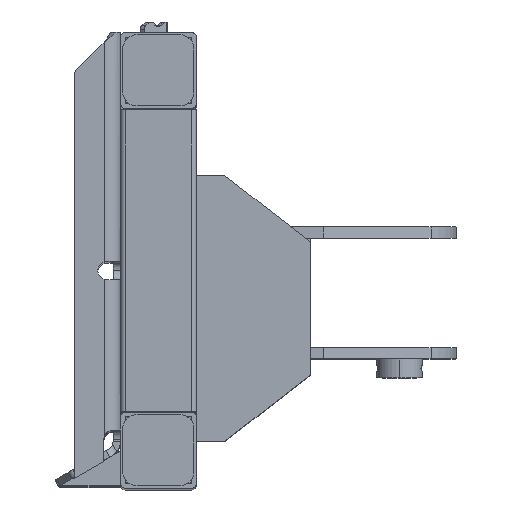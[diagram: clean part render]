
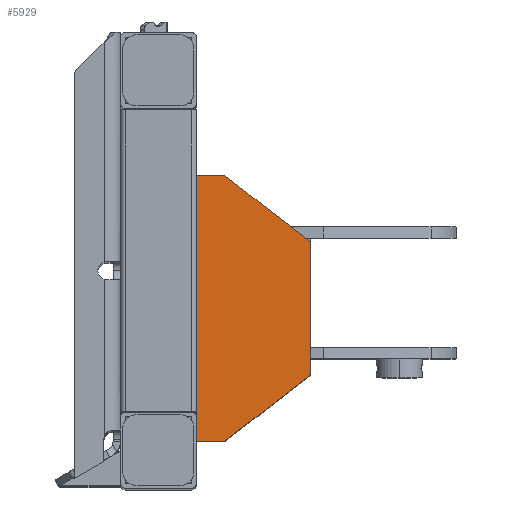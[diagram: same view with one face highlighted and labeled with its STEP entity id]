
A CAD part, top view. The second image highlights one B-rep face of the part: STEP entity #5929.
In plain terms, the highlighted planar face has unit normal (0, 0, 1).
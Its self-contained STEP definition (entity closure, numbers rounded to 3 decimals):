
#374 = DIRECTION ( 'NONE',  ( -0.614, 0.789, 0. ) ) ;
#712 = VECTOR ( 'NONE', #14473, 1000. ) ;
#1505 = EDGE_CURVE ( 'NONE', #12316, #4648, #5708, .T. ) ;
#1690 = CARTESIAN_POINT ( 'NONE',  ( 140., 30., 5. ) ) ;
#1708 = CARTESIAN_POINT ( 'NONE',  ( 70., 120., 5. ) ) ;
#2168 = ORIENTED_EDGE ( 'NONE', *, *, #12221, .T. ) ;
#2255 = DIRECTION ( 'NONE',  ( 1., 0., 0. ) ) ;
#2358 = LINE ( 'NONE', #10244, #14744 ) ;
#2473 = CARTESIAN_POINT ( 'NONE',  ( 70., 120., 5. ) ) ;
#2900 = ORIENTED_EDGE ( 'NONE', *, *, #5229, .T. ) ;
#3187 = ORIENTED_EDGE ( 'NONE', *, *, #1505, .T. ) ;
#3421 = DIRECTION ( 'NONE',  ( 0., 0., -1. ) ) ;
#3741 = EDGE_LOOP ( 'NONE', ( #7368, #2900, #2168, #3187, #7110, #4246 ) ) ;
#3915 = LINE ( 'NONE', #13465, #712 ) ;
#4012 = VECTOR ( 'NONE', #374, 1000. ) ;
#4246 = ORIENTED_EDGE ( 'NONE', *, *, #5857, .T. ) ;
#4295 = VECTOR ( 'NONE', #4426, 1000. ) ;
#4426 = DIRECTION ( 'NONE',  ( -0.614, -0.789, 0. ) ) ;
#4493 = LINE ( 'NONE', #5776, #4295 ) ;
#4509 = LINE ( 'NONE', #15541, #13314 ) ;
#4591 = CARTESIAN_POINT ( 'NONE',  ( -70., 120., 5. ) ) ;
#4648 = VERTEX_POINT ( 'NONE', #2473 ) ;
#5030 = CARTESIAN_POINT ( 'NONE',  ( -140., 0., 5. ) ) ;
#5229 = EDGE_CURVE ( 'NONE', #12788, #12259, #4509, .T. ) ;
#5260 = LINE ( 'NONE', #14713, #9213 ) ;
#5425 = VERTEX_POINT ( 'NONE', #4591 ) ;
#5708 = LINE ( 'NONE', #1708, #4012 ) ;
#5776 = CARTESIAN_POINT ( 'NONE',  ( -70., 120., 5. ) ) ;
#5857 = EDGE_CURVE ( 'NONE', #5425, #11021, #4493, .T. ) ;
#5929 = ADVANCED_FACE ( 'NONE', ( #9338 ), #9593, .F. ) ;
#7110 = ORIENTED_EDGE ( 'NONE', *, *, #14289, .T. ) ;
#7132 = CARTESIAN_POINT ( 'NONE',  ( 0., 0., 5. ) ) ;
#7368 = ORIENTED_EDGE ( 'NONE', *, *, #9486, .T. ) ;
#8934 = CARTESIAN_POINT ( 'NONE',  ( 140., 0., 5. ) ) ;
#9213 = VECTOR ( 'NONE', #11368, 1000. ) ;
#9338 = FACE_OUTER_BOUND ( 'NONE', #3741, .T. ) ;
#9486 = EDGE_CURVE ( 'NONE', #11021, #12788, #2358, .T. ) ;
#9593 = PLANE ( 'NONE',  #12134 ) ;
#10244 = CARTESIAN_POINT ( 'NONE',  ( -140., 0., 5. ) ) ;
#10289 = DIRECTION ( 'NONE',  ( 0., -1., 0. ) ) ;
#11021 = VERTEX_POINT ( 'NONE', #12032 ) ;
#11368 = DIRECTION ( 'NONE',  ( 0., 1., 0. ) ) ;
#12032 = CARTESIAN_POINT ( 'NONE',  ( -140., 30., 5. ) ) ;
#12134 = AXIS2_PLACEMENT_3D ( 'NONE', #7132, #3421, #14323 ) ;
#12221 = EDGE_CURVE ( 'NONE', #12259, #12316, #5260, .T. ) ;
#12259 = VERTEX_POINT ( 'NONE', #8934 ) ;
#12316 = VERTEX_POINT ( 'NONE', #1690 ) ;
#12788 = VERTEX_POINT ( 'NONE', #5030 ) ;
#13314 = VECTOR ( 'NONE', #2255, 1000. ) ;
#13465 = CARTESIAN_POINT ( 'NONE',  ( -70., 120., 5. ) ) ;
#14289 = EDGE_CURVE ( 'NONE', #4648, #5425, #3915, .T. ) ;
#14323 = DIRECTION ( 'NONE',  ( -1., 0., 0. ) ) ;
#14473 = DIRECTION ( 'NONE',  ( -1., 0., 0. ) ) ;
#14713 = CARTESIAN_POINT ( 'NONE',  ( 140., 0., 5. ) ) ;
#14744 = VECTOR ( 'NONE', #10289, 1000. ) ;
#15541 = CARTESIAN_POINT ( 'NONE',  ( -140., 0., 5. ) ) ;
